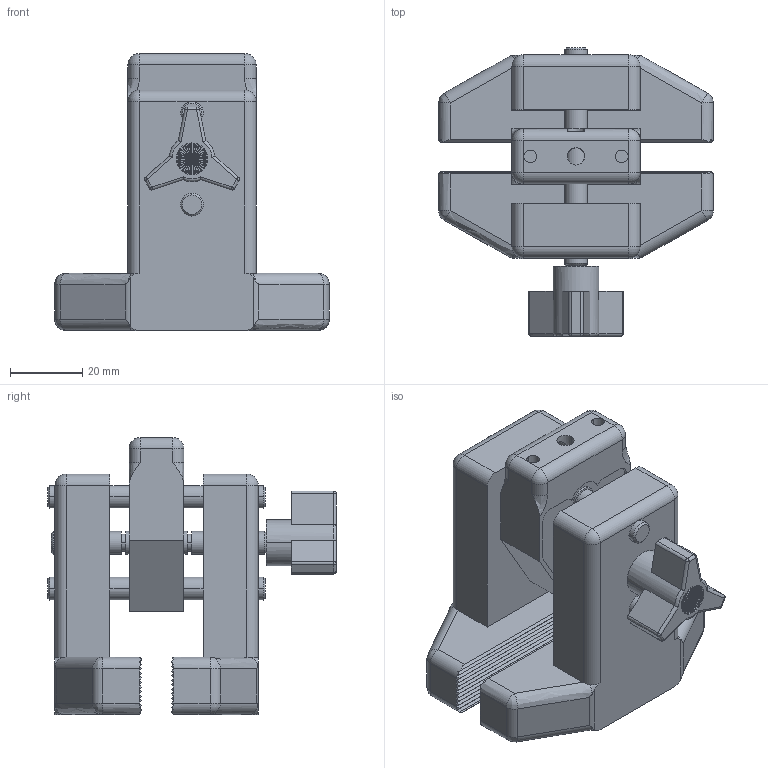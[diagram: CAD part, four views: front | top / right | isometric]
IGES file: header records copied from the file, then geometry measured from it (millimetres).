
Global section: file name: No Iges File Name specified; native system: Autodesk Inventor 2010; preprocessor: AutoDesk Inventor Iges Exporter R2010; author: mlampen; date: 20170419.130153; units: inch
Bounding box: 76.2 x 80.04 x 76.83 mm (x, y, z)
Volume: 127777 mm3; surface area: 40781.2 mm2
Topology: 10 solids, 16 shells, 944 faces, 2749 edges, 1880 vertices
Faces by surface type: cylinder 273, plane 271, revolution 203, bspline 134, cone 46, sphere 14, torus 3
Full cylindrical faces by diameter (mm): 2.474 x60, 3.505 x40
